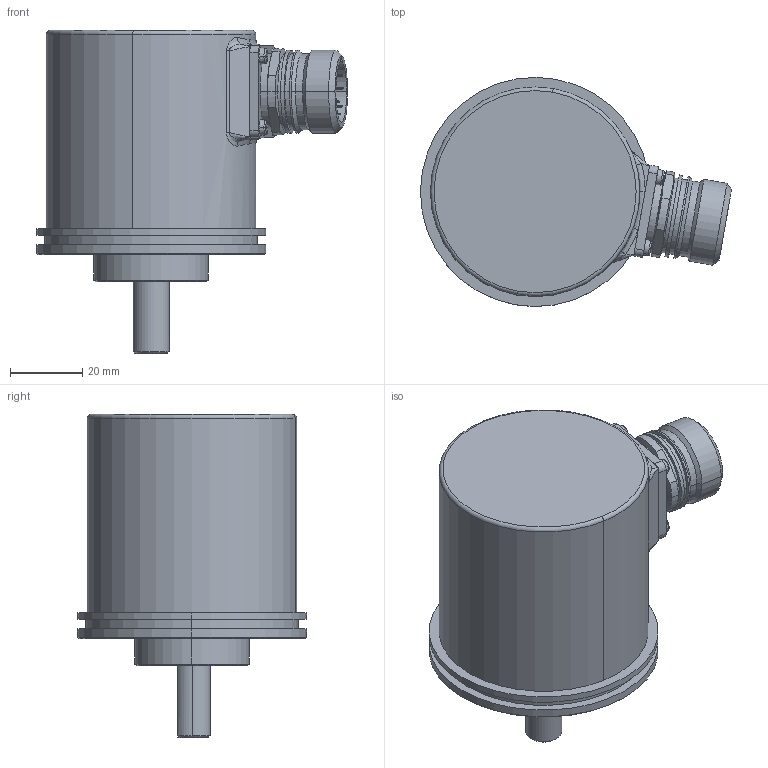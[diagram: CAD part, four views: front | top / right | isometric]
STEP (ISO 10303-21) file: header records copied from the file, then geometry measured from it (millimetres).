
FILE_DESCRIPTION (( 'STEP AP214' ), '1' );
FILE_NAME ('5802.P2X5.XXXX.STEP', '2008-09-16T09:40:56', ( 'admin' ), ( 'Fritz Kübler GmbH' ), 'SwSTEP 2.0', 'SolidWorks 2008', '' );
FILE_SCHEMA (( 'AUTOMOTIVE_DESIGN' ));
Length unit declared in the file: millimetre
Products named in the file (1): 5802.P2X5.XXXX
Bounding box: 86.17 x 63.5 x 89.55 mm (x, y, z)
Volume: 64840.6 mm3; surface area: 52862.8 mm2
Topology: 22 solids, 25 shells, 729 faces, 1674 edges, 1021 vertices
Faces by surface type: cylinder 320, plane 174, cone 109, torus 58, sphere 44, bspline 24
Entity records: 31232 total; most frequent: CARTESIAN_POINT 6421, DIRECTION 3791, ORIENTED_EDGE 3172, AXIS2_PLACEMENT_3D 1607, EDGE_CURVE 1586, VERTEX_POINT 991, CIRCLE 901, EDGE_LOOP 887
